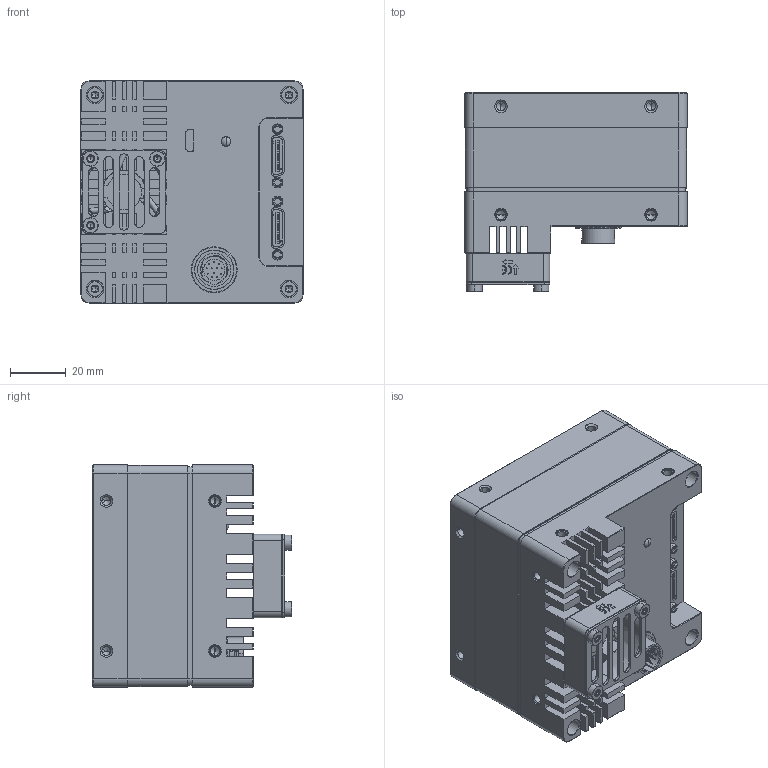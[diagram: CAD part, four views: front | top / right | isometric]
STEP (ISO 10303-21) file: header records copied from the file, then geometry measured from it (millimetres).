
FILE_DESCRIPTION((''),'2;1');
FILE_NAME('0-DH3-3364-0000_SW0001','2023-11-30T19:01:10',('303992'),(''),'CREO PARAMETRIC BY PTC INC, 2020184','CREO PARAMETRIC BY PTC INC, 2020184','');
FILE_SCHEMA(('CONFIG_CONTROL_DESIGN','SHAPE_APPEARANCE_LAYERS_GROUPS'));
Products named in the file (1): 0-DH3-3364-0000_SW0001
Bounding box: 80 x 71.64 x 80 mm (x, y, z)
Volume: 278620.7 mm3; surface area: 51349.9 mm2
Topology: 1 solids, 10 shells, 2008 faces, 5277 edges, 3361 vertices
Faces by surface type: plane 989, cylinder 538, cone 295, bspline 114, torus 69, sphere 3
Entity records: 105418 total; most frequent: CARTESIAN_POINT 27336, ORIENTED_EDGE 10400, DIRECTION 10026, PRESENTATION_STYLE_ASSIGNMENT 6829, STYLED_ITEM 5220, CURVE_STYLE 5212, EDGE_CURVE 5212, AXIS2_PLACEMENT_3D 3446
